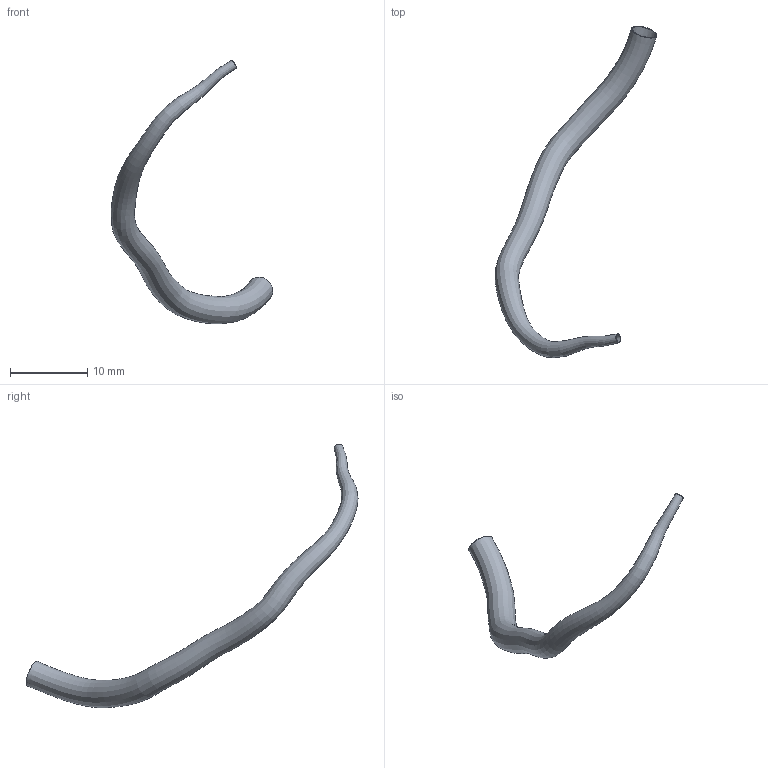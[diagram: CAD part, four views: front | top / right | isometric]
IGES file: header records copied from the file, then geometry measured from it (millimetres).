
Global section: file name: C:\Documents and Settings\Administrator\Desktop\FDA-Pig\Domestic LCA\Pig_000006\lcx.seg.es.igs; native system: Rhinoceros ( May 19 2006 ); preprocessor: Trout Lake IGES 012 May 19 2006; date: 111205.183620; units: centimetre
Bounding box: 20.91 x 42.89 x 34.04 mm (x, y, z)
Surface area: 1205.4 mm2 (no closed solid volume)
Topology: 0 solids, 0 shells, 4 faces, 14 edges, 10 vertices
Faces by surface type: bspline 4
